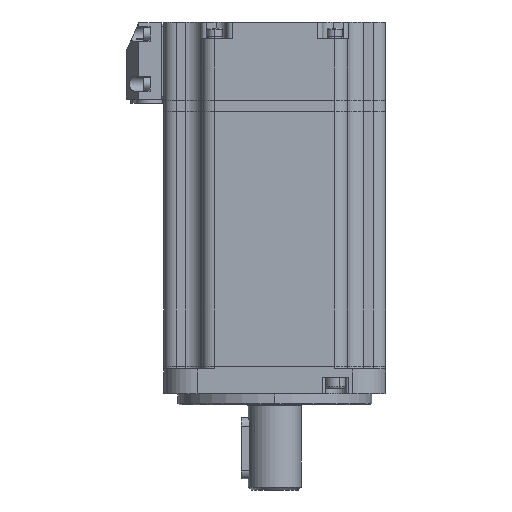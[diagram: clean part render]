
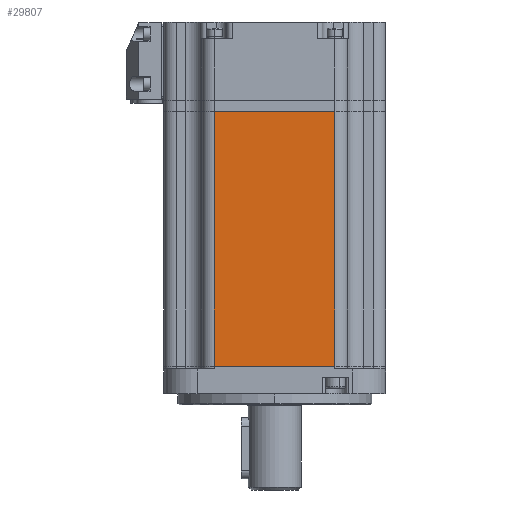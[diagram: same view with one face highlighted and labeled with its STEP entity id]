
A CAD part, left-side view. The second image highlights one B-rep face of the part: STEP entity #29807.
In plain terms, the highlighted planar face has unit normal (-1, 0, 0).
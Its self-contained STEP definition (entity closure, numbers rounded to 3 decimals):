
#646 = EDGE_LOOP ( 'NONE', ( #28956, #15560, #52800, #37137 ) ) ;
#2264 = EDGE_CURVE ( 'NONE', #48342, #52312, #19040, .T. ) ;
#2283 = EDGE_CURVE ( 'NONE', #52312, #43579, #50423, .T. ) ;
#5524 = DIRECTION ( 'NONE',  ( 0., -1., 0. ) ) ;
#6151 = VECTOR ( 'NONE', #29499, 1000. ) ;
#13644 = CARTESIAN_POINT ( 'NONE',  ( -40., -21.75, 0. ) ) ;
#14639 = CARTESIAN_POINT ( 'NONE',  ( -40., -21.75, 91.9 ) ) ;
#15560 = ORIENTED_EDGE ( 'NONE', *, *, #49050, .T. ) ;
#19040 = LINE ( 'NONE', #29926, #42086 ) ;
#20339 = VECTOR ( 'NONE', #34357, 1000. ) ;
#21709 = CARTESIAN_POINT ( 'NONE',  ( -40., -21.75, 91.9 ) ) ;
#23120 = CARTESIAN_POINT ( 'NONE',  ( -40., 21.75, 91.9 ) ) ;
#25520 = EDGE_CURVE ( 'NONE', #28750, #43579, #48325, .T. ) ;
#26245 = CARTESIAN_POINT ( 'NONE',  ( -40., 21.75, 0. ) ) ;
#27781 = AXIS2_PLACEMENT_3D ( 'NONE', #46930, #38653, #51020 ) ;
#28357 = VECTOR ( 'NONE', #51723, 1000. ) ;
#28750 = VERTEX_POINT ( 'NONE', #37918 ) ;
#28956 = ORIENTED_EDGE ( 'NONE', *, *, #25520, .F. ) ;
#29499 = DIRECTION ( 'NONE',  ( 0., -1., 0. ) ) ;
#29807 = ADVANCED_FACE ( 'NONE', ( #32022 ), #42770, .F. ) ;
#29926 = CARTESIAN_POINT ( 'NONE',  ( -40., 26.25, 0. ) ) ;
#32022 = FACE_OUTER_BOUND ( 'NONE', #646, .T. ) ;
#33586 = CARTESIAN_POINT ( 'NONE',  ( -40., 26.25, 91.9 ) ) ;
#34357 = DIRECTION ( 'NONE',  ( 0., 0., 1. ) ) ;
#37137 = ORIENTED_EDGE ( 'NONE', *, *, #2283, .T. ) ;
#37918 = CARTESIAN_POINT ( 'NONE',  ( -40., 21.75, 91.9 ) ) ;
#38653 = DIRECTION ( 'NONE',  ( 1., 0., 0. ) ) ;
#42086 = VECTOR ( 'NONE', #5524, 1000. ) ;
#42770 = PLANE ( 'NONE',  #27781 ) ;
#43579 = VERTEX_POINT ( 'NONE', #14639 ) ;
#46930 = CARTESIAN_POINT ( 'NONE',  ( -40., 26.25, 91.9 ) ) ;
#48325 = LINE ( 'NONE', #33586, #6151 ) ;
#48342 = VERTEX_POINT ( 'NONE', #26245 ) ;
#49050 = EDGE_CURVE ( 'NONE', #28750, #48342, #50132, .T. ) ;
#50132 = LINE ( 'NONE', #23120, #28357 ) ;
#50423 = LINE ( 'NONE', #21709, #20339 ) ;
#51020 = DIRECTION ( 'NONE',  ( 0., 1., 0. ) ) ;
#51723 = DIRECTION ( 'NONE',  ( 0., 0., -1. ) ) ;
#52312 = VERTEX_POINT ( 'NONE', #13644 ) ;
#52800 = ORIENTED_EDGE ( 'NONE', *, *, #2264, .T. ) ;
